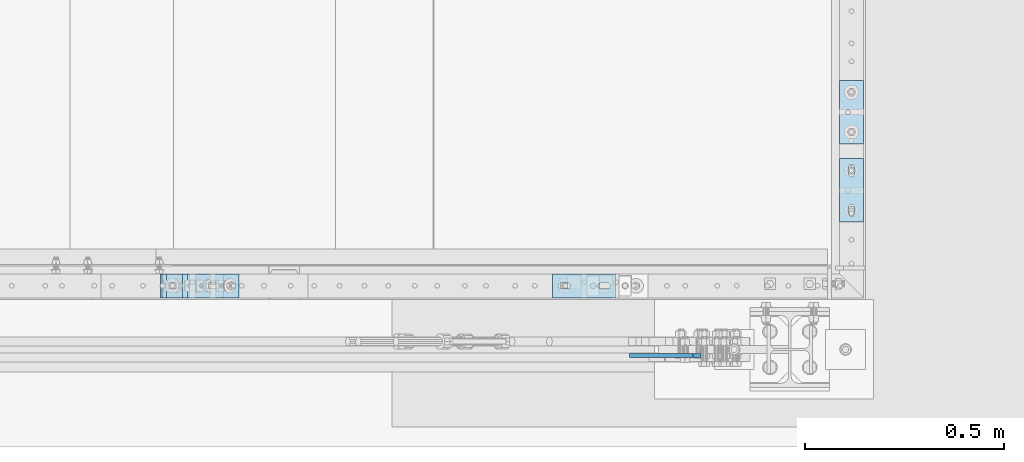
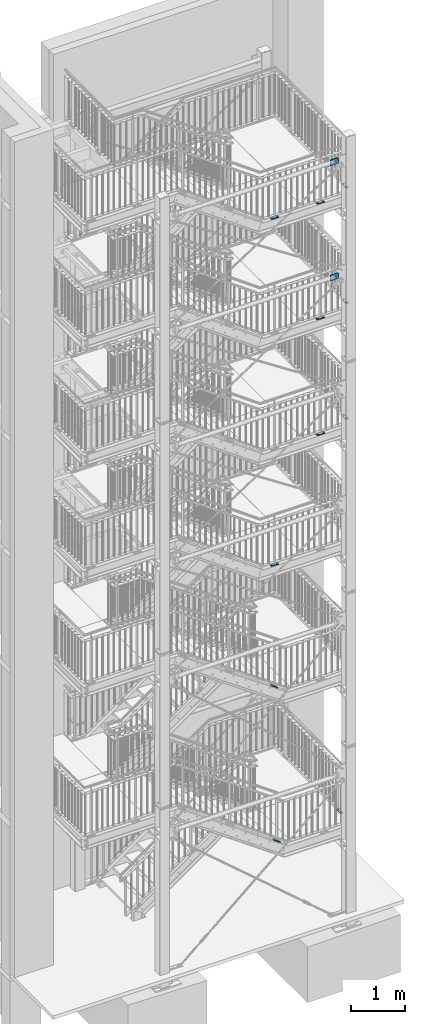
# One storey, part 198 of 831: 13 plates, 30 openings.
"""IFC2X3 building model written with IfcOpenShell, lengths in millimetres."""

import ifcopenshell
import ifcopenshell.guid

model = None  # the IFC model being written
_history = None  # IfcOwnerHistory: only IFC2X3 demands one
_inside = {}  # id of a spatial element -> (the spatial element, [elements in it])
_under = {}  # id of a project, library or spatial element -> (it, [spatial elements below it])
_declared = {}  # id of a project -> (the project, [libraries it declares])
_typed = {}  # id of a type object -> (the type object, [elements of that type])
_made_of = {}  # id of a material, layer set ... -> (it, [elements and type objects made of it])


def new_model(schema):
    """Start an empty IFC model of exactly this schema.

    Asked for "IFC4X3", IfcOpenShell would pick the latest addendum, in which some entities
    have other attributes; the version numbers below select the first issue.
    IFC2X3 requires an IfcOwnerHistory on every rooted entity: one is made here for all.
    """
    global model, _history
    if schema == "IFC4X3":
        model = ifcopenshell.file(schema_version=(4, 3, 0, 0))
    else:
        model = ifcopenshell.file(schema=schema)
    _inside.clear()
    _under.clear()
    _declared.clear()
    _typed.clear()
    _made_of.clear()
    _history = None
    if model.schema == "IFC2X3":
        org = make("IfcOrganization", Name="unknown")
        user = make(
            "IfcPersonAndOrganization",
            ThePerson=make("IfcPerson", FamilyName="unknown"),
            TheOrganization=org,
        )
        app = make(
            "IfcApplication",
            ApplicationDeveloper=org,
            Version="unknown",
            ApplicationFullName="unknown",
            ApplicationIdentifier="unknown",
        )
        _history = make(
            "IfcOwnerHistory",
            OwningUser=user,
            OwningApplication=app,
            ChangeAction="ADDED",
            CreationDate=0,
        )
    return model


def make(cls, **values):
    """One entity of the class cls with the attributes given. An attribute that is None is left unset."""
    return model.create_entity(
        cls, **{name: value for name, value in values.items() if value is not None}
    )


def entity(cls, *values):
    """Any entity or typed value of the class cls, its attributes in the order of the schema. None: left unset."""
    e = model.create_entity(cls)
    for i, value in enumerate(values):
        if value is not None:
            e[i] = value
    return e


def rooted(cls, **values):
    """An entity with a GlobalId (a new one), such as an element, a storey or a relation."""
    return make(cls, GlobalId=ifcopenshell.guid.new(), OwnerHistory=_history, **values)


def si_unit(unit_type, name, prefix=None):
    """IfcSIUnit, for example si_unit("LENGTHUNIT", "METRE", prefix="MILLI")."""
    return make("IfcSIUnit", UnitType=unit_type, Prefix=prefix, Name=name)


def converted_unit(unit_type, name, factor, base, dimensions=None, offset=None):
    """IfcConversionBasedUnit, such as the inch: factor (a typed value) times the base unit."""
    return make(
        "IfcConversionBasedUnit"
        if offset is None
        else "IfcConversionBasedUnitWithOffset",
        ConversionOffset=offset,
        Dimensions=None
        if dimensions is None
        else entity("IfcDimensionalExponents", *dimensions),
        UnitType=unit_type,
        Name=name,
        ConversionFactor=make(
            "IfcMeasureWithUnit", ValueComponent=factor, UnitComponent=base
        ),
    )


def assignment(units):
    """IfcUnitAssignment: the units of a project."""
    return None if units is None else make("IfcUnitAssignment", Units=units)


def point(xyz):
    """IfcCartesianPoint."""
    return None if xyz is None else make("IfcCartesianPoint", Coordinates=xyz)


def direction(xyz):
    """IfcDirection."""
    return None if xyz is None else make("IfcDirection", DirectionRatios=xyz)


def frame(location, z_axis=None, x_axis=None):
    """IfcAxis2Placement3D, a coordinate frame: its origin and axes. An axis left out is left unset."""
    return make(
        "IfcAxis2Placement3D",
        Location=point(location),
        Axis=direction(z_axis),
        RefDirection=direction(x_axis),
    )


def frame_2d(location, x_axis=None):
    """IfcAxis2Placement2D, a coordinate frame in the plane: its origin and x axis."""
    return make(
        "IfcAxis2Placement2D", Location=point(location), RefDirection=direction(x_axis)
    )


def origin():
    """The frame at (0, 0, 0) with its axes left unset."""
    return frame((0.0, 0.0, 0.0))


def origin_with_axes():
    """The frame at (0, 0, 0) with the z axis (0, 0, 1) and the x axis (1, 0, 0) written out."""
    return frame((0.0, 0.0, 0.0), z_axis=(0.0, 0.0, 1.0), x_axis=(1.0, 0.0, 0.0))


def place(relative_to, where):
    """IfcLocalPlacement: puts the frame where relative to a parent placement (None: the world)."""
    return make(
        "IfcLocalPlacement", PlacementRelTo=relative_to, RelativePlacement=where
    )


def context(
    kind, dimensions, precision=None, world=None, true_north=None, identifier=None
):
    """IfcGeometricRepresentationContext, for example the 3D "Model" context."""
    return make(
        "IfcGeometricRepresentationContext",
        ContextIdentifier=identifier,
        ContextType=kind,
        CoordinateSpaceDimension=dimensions,
        Precision=precision,
        WorldCoordinateSystem=world,
        TrueNorth=true_north,
    )


def project(units=None, contexts=None):
    """IfcProject with its units and contexts."""
    return rooted(
        "IfcProject",
        Name="project",
        RepresentationContexts=contexts,
        UnitsInContext=assignment(units),
    )


def spatial(cls, under=None, at=None, **own):
    """A site, building, storey or space (cls), placed at a placement, below another one or the project."""
    s = rooted(cls, ObjectPlacement=at, **own)
    if under is not None:
        _under.setdefault(under.id(), (under, []))[1].append(s)
    return s


def polyline(points):
    """IfcPolyline through the points."""
    return make("IfcPolyline", Points=[point(p) for p in points])


def circle_curve(where, radius):
    """IfcCircle in the frame where."""
    return make("IfcCircle", Position=where, Radius=radius)


def line_curve(start, along, magnitude):
    """IfcLine from a point along a vector."""
    return make(
        "IfcLine",
        Pnt=point(start),
        Dir=make("IfcVector", Orientation=direction(along), Magnitude=magnitude),
    )


def trimmed(basis, trim1, trim2, sense, master):
    """IfcTrimmedCurve: the piece of a basis curve between two trims."""
    return make(
        "IfcTrimmedCurve",
        BasisCurve=basis,
        Trim1=trim1,
        Trim2=trim2,
        SenseAgreement=sense,
        MasterRepresentation=master,
    )


def segment(curve, same_sense, transition):
    """IfcCompositeCurveSegment."""
    return make(
        "IfcCompositeCurveSegment",
        Transition=transition,
        SameSense=same_sense,
        ParentCurve=curve,
    )


def composite_curve(segments, self_intersect=None):
    """IfcCompositeCurve: segments joined end to end."""
    return make("IfcCompositeCurve", Segments=segments, SelfIntersect=self_intersect)


def profile(cls, at=None, kind="AREA", **sizes):
    """A parametric profile (cls). Its sizes go by their IFC names, for example OverallWidth=200.0."""
    return make(cls, ProfileType=kind, Position=at, **sizes)


def circle(**sizes):
    """IfcCircleProfileDef."""
    return profile("IfcCircleProfileDef", **sizes)


def outline(outer, holes=None, kind="AREA"):
    """IfcArbitraryClosedProfileDef: a profile drawn as a closed curve; with holes, ...WithVoids."""
    if holes is None:
        return make("IfcArbitraryClosedProfileDef", ProfileType=kind, OuterCurve=outer)
    return make(
        "IfcArbitraryProfileDefWithVoids",
        ProfileType=kind,
        OuterCurve=outer,
        InnerCurves=holes,
    )


def extrude(swept, where, along, depth):
    """IfcExtrudedAreaSolid: the profile swept, set in the frame where, extruded along a direction by depth."""
    return make(
        "IfcExtrudedAreaSolid",
        SweptArea=swept,
        Position=where,
        ExtrudedDirection=direction(along),
        Depth=depth,
    )


def shape(context_of_items, identifier, shape_type, items):
    """IfcShapeRepresentation: the items that make up one representation, for example the "Body"."""
    return make(
        "IfcShapeRepresentation",
        ContextOfItems=context_of_items,
        RepresentationIdentifier=identifier,
        RepresentationType=shape_type,
        Items=items,
    )


def material(Name=None, Category=None):
    """IfcMaterial."""
    return make("IfcMaterial", Name=Name, Category=Category)


def layer(
    of_material, thickness, ventilated=None, Name=None, Category=None, Priority=None
):
    """IfcMaterialLayer: one layer of a wall or slab, of a material (None: an air gap)."""
    return make(
        "IfcMaterialLayer",
        Material=of_material,
        LayerThickness=thickness,
        IsVentilated=ventilated,
        Name=Name,
        Category=Category,
        Priority=Priority,
    )


def layer_set(layers, Name=None):
    """IfcMaterialLayerSet."""
    return make("IfcMaterialLayerSet", MaterialLayers=layers, LayerSetName=Name)


def made_of(thing, what):
    """Note that an element or type object is made of a material, layer set ...; save() writes the relation."""
    if what is not None:
        _made_of.setdefault(what.id(), (what, []))[1].append(thing)
    return thing


def element(
    cls,
    number,
    at=None,
    inside=None,
    cuts=None,
    type_object=None,
    material=None,
    context=None,
    identifier="Body",
    shape_type=None,
    held_by="IfcProductDefinitionShape",
    body=None,
    shapes=None,
    **own,
):
    """One element of the class cls, such as IfcWall. Its Tag is "e" and its number.

    at: its placement. inside: the storey or other place that contains it. cuts: it is an
    opening in that element (IfcRelVoidsElement). A single representation is given by context,
    identifier, shape_type and body (its items); several are given by shapes. held_by: the class
    of the entity that holds the representations. save() writes the other relations.
    """
    e = rooted(cls, Tag="e%d" % number, ObjectPlacement=at, **own)
    if body is not None:
        shapes = [shape(context, identifier, shape_type, body)]
    if shapes is not None:
        e.Representation = make(held_by, Representations=shapes)
    if inside is not None:
        _inside.setdefault(inside.id(), (inside, []))[1].append(e)
    if cuts is not None:
        rooted(
            "IfcRelVoidsElement", RelatingBuildingElement=cuts, RelatedOpeningElement=e
        )
    if type_object is not None:
        _typed.setdefault(type_object.id(), (type_object, []))[1].append(e)
    return made_of(e, material)


def aggregate(whole, parts):
    """IfcRelAggregates: a whole, such as a stair, and the parts it consists of."""
    return rooted("IfcRelAggregates", RelatingObject=whole, RelatedObjects=parts)


def save(model, path):
    """Write the relations noted so far, then the file.

    IfcRelAggregates (storeys below a building ...), IfcRelContainedInSpatialStructure (elements
    in a storey), IfcRelDefinesByType, IfcRelAssociatesMaterial and IfcRelDeclares: one each for
    every whole, place, type object, material and project.
    """
    for whole, parts in _under.values():
        aggregate(whole, parts)
    for where, things in _inside.values():
        rooted(
            "IfcRelContainedInSpatialStructure",
            RelatedElements=things,
            RelatingStructure=where,
        )
    for kind, things in _typed.values():
        rooted("IfcRelDefinesByType", RelatedObjects=things, RelatingType=kind)
    for what, things in _made_of.values():
        rooted("IfcRelAssociatesMaterial", RelatedObjects=things, RelatingMaterial=what)
    for by, libraries in _declared.values():
        rooted("IfcRelDeclares", RelatingContext=by, RelatedDefinitions=libraries)
    model.write(path)


model = new_model("IFC2X3")

# Units and contexts
model_context = context("Model", 3, precision=1e-09, world=origin_with_axes())
ifc_project = project(units=[si_unit("LENGTHUNIT", "METRE", prefix="MILLI"), si_unit("AREAUNIT", "SQUARE_METRE"), si_unit("VOLUMEUNIT", "CUBIC_METRE"), converted_unit("PLANEANGLEUNIT", "DEGREE", entity("IfcPlaneAngleMeasure", 0.01745329), si_unit("PLANEANGLEUNIT", "RADIAN"), dimensions=[0, 0, 0, 0, 0, 0, 0])], contexts=[model_context])

# Site, building, storey
site_placement = place(None, origin_with_axes())
site = spatial("IfcSite", under=ifc_project, at=site_placement, Name="Site", CompositionType="ELEMENT")
building_placement = place(site_placement, origin_with_axes())
building = spatial("IfcBuilding", under=site, at=building_placement, Name="Struktur 1", CompositionType="ELEMENT")
storey_placement = place(building_placement, origin_with_axes())
storey = spatial("IfcBuildingStorey", under=building, at=storey_placement, Name="Default Storey", CompositionType="ELEMENT", Elevation=0.0)

# Plate, openings
ifc_material = material(Name="S235JR")
ifc_layer_1 = layer(ifc_material, 20.0)
ifc_layer_set_1 = layer_set([ifc_layer_1], Name="S235JR")
plate_1_placement = place(None, frame((9051.713402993, 4686.735971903, 11265.5000003), z_axis=(0.0, 0.0, 1.0), x_axis=(0.0, 1.0, 0.0)))
plate_1 = element("IfcPlate", 1, at=plate_1_placement, inside=storey, material=ifc_layer_set_1, Name="Plate#507", ObjectType="Plate#507", context=model_context, shape_type="SweptSolid", body=[
    extrude(outline(polyline([(0.0, 0.0), (160.0, 0.0), (160.0, 60.0), (0.0, 60.0), (0.0, 0.0)])), origin_with_axes(), (0.0, 0.0, 1.0), 20.0),
])
opening_1_placement = place(plate_1_placement, frame((38.0, 37.001, 20.5), z_axis=(0.0, 0.0, 1.0), x_axis=(-1.0, 0.0, 0.0)))
element("IfcOpeningElement", 2, at=opening_1_placement, cuts=plate_1, ObjectType="Opening", context=model_context, shape_type="SweptSolid", body=[
    extrude(outline(composite_curve([segment(trimmed(line_curve((0.0, 0.0), (1.0, 0.0), 16.0), [point((0.0, 0.0))], [point((16.0, 0.0))], True, "CARTESIAN"), True, "CONTINUOUS"), segment(trimmed(circle_curve(frame_2d((16.0, 7.001), x_axis=(1.0, 0.0)), 7.001), [point((16.0, 0.0))], [point((16.0, 14.002))], True, "CARTESIAN"), True, "CONTINUOUS"), segment(trimmed(line_curve((16.0, 14.002), (-1.0, 0.0), 16.0), [point((16.0, 14.002))], [point((0.0, 14.002))], True, "CARTESIAN"), True, "CONTINUOUS"), segment(trimmed(circle_curve(frame_2d((0.0, 7.001), x_axis=(1.0, 0.0)), 7.001), [point((0.0, 14.002))], [point((0.0, 0.0))], True, "CARTESIAN"), True, "CONTINUOUS")], self_intersect=False)), origin(), (0.0, 0.0, -1.0), 21.0),
])
opening_2_placement = place(plate_1_placement, frame((138.0, 37.001, 20.5), z_axis=(0.0, 0.0, 1.0), x_axis=(-1.0, 0.0, 0.0)))
element("IfcOpeningElement", 3, at=opening_2_placement, cuts=plate_1, ObjectType="Opening", context=model_context, shape_type="SweptSolid", body=[
    extrude(outline(composite_curve([segment(trimmed(line_curve((0.0, 0.0), (1.0, 0.0), 16.0), [point((0.0, 0.0))], [point((16.0, 0.0))], True, "CARTESIAN"), True, "CONTINUOUS"), segment(trimmed(circle_curve(frame_2d((16.0, 7.001), x_axis=(1.0, 0.0)), 7.001), [point((16.0, 0.0))], [point((16.0, 14.002))], True, "CARTESIAN"), True, "CONTINUOUS"), segment(trimmed(line_curve((16.0, 14.002), (-1.0, 0.0), 16.0), [point((16.0, 14.002))], [point((0.0, 14.002))], True, "CARTESIAN"), True, "CONTINUOUS"), segment(trimmed(circle_curve(frame_2d((0.0, 7.001), x_axis=(1.0, 0.0)), 7.001), [point((0.0, 14.002))], [point((0.0, 0.0))], True, "CARTESIAN"), True, "CONTINUOUS")], self_intersect=False)), origin(), (0.0, 0.0, -1.0), 21.0),
])

plate_2_placement = place(None, frame((8269.792260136, 4496.736971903, 11265.5000003), z_axis=(0.0, 0.0, 1.0), x_axis=(1.0, 0.0, 0.0)))
plate_2 = element("IfcPlate", 4, at=plate_2_placement, inside=storey, material=ifc_layer_set_1, Name="Plate#508", ObjectType="Plate#508", context=model_context, shape_type="SweptSolid", body=[
    extrude(outline(polyline([(0.0, 0.0), (160.0, 0.0), (160.0, 60.0), (0.0, 60.0), (0.0, 0.0)])), origin_with_axes(), (0.0, 0.0, 1.0), 20.0),
])
opening_3_placement = place(plate_2_placement, frame((38.0, 37.001, 20.5), z_axis=(0.0, 0.0, 1.0), x_axis=(-1.0, 0.0, 0.0)))
element("IfcOpeningElement", 5, at=opening_3_placement, cuts=plate_2, ObjectType="Opening", context=model_context, shape_type="SweptSolid", body=[
    extrude(outline(composite_curve([segment(trimmed(line_curve((0.0, 0.0), (1.0, 0.0), 16.0), [point((0.0, 0.0))], [point((16.0, 0.0))], True, "CARTESIAN"), True, "CONTINUOUS"), segment(trimmed(circle_curve(frame_2d((16.0, 7.001), x_axis=(1.0, 0.0)), 7.001), [point((16.0, 0.0))], [point((16.0, 14.002))], True, "CARTESIAN"), True, "CONTINUOUS"), segment(trimmed(line_curve((16.0, 14.002), (-1.0, 0.0), 16.0), [point((16.0, 14.002))], [point((0.0, 14.002))], True, "CARTESIAN"), True, "CONTINUOUS"), segment(trimmed(circle_curve(frame_2d((0.0, 7.001), x_axis=(1.0, 0.0)), 7.001), [point((0.0, 14.002))], [point((0.0, 0.0))], True, "CARTESIAN"), True, "CONTINUOUS")], self_intersect=False)), origin(), (0.0, 0.0, -1.0), 21.0),
])
opening_4_placement = place(plate_2_placement, frame((138.0, 37.001, 20.5), z_axis=(0.0, 0.0, 1.0), x_axis=(-1.0, 0.0, 0.0)))
element("IfcOpeningElement", 6, at=opening_4_placement, cuts=plate_2, ObjectType="Opening", context=model_context, shape_type="SweptSolid", body=[
    extrude(outline(composite_curve([segment(trimmed(line_curve((0.0, 0.0), (1.0, 0.0), 16.0), [point((0.0, 0.0))], [point((16.0, 0.0))], True, "CARTESIAN"), True, "CONTINUOUS"), segment(trimmed(circle_curve(frame_2d((16.0, 7.001), x_axis=(1.0, 0.0)), 7.001), [point((16.0, 0.0))], [point((16.0, 14.002))], True, "CARTESIAN"), True, "CONTINUOUS"), segment(trimmed(line_curve((16.0, 14.002), (-1.0, 0.0), 16.0), [point((16.0, 14.002))], [point((0.0, 14.002))], True, "CARTESIAN"), True, "CONTINUOUS"), segment(trimmed(circle_curve(frame_2d((0.0, 7.001), x_axis=(1.0, 0.0)), 7.001), [point((0.0, 14.002))], [point((0.0, 0.0))], True, "CARTESIAN"), True, "CONTINUOUS")], self_intersect=False)), origin(), (0.0, 0.0, -1.0), 21.0),
])

plate_3_placement = place(None, frame((9051.713402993, 4686.735971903, 13896.5000001), z_axis=(0.0, 0.0, 1.0), x_axis=(0.0, 1.0, 0.0)))
plate_3 = element("IfcPlate", 7, at=plate_3_placement, inside=storey, material=ifc_layer_set_1, Name="Plate#507", ObjectType="Plate#507", context=model_context, shape_type="SweptSolid", body=[
    extrude(outline(polyline([(0.0, 0.0), (160.0, 0.0), (160.0, 60.0), (0.0, 60.0), (0.0, 0.0)])), origin_with_axes(), (0.0, 0.0, 1.0), 20.0),
])
opening_5_placement = place(plate_3_placement, frame((38.0, 37.001, 20.5), z_axis=(0.0, 0.0, 1.0), x_axis=(-1.0, 0.0, 0.0)))
element("IfcOpeningElement", 8, at=opening_5_placement, cuts=plate_3, ObjectType="Opening", context=model_context, shape_type="SweptSolid", body=[
    extrude(outline(composite_curve([segment(trimmed(line_curve((0.0, 0.0), (1.0, 0.0), 16.0), [point((0.0, 0.0))], [point((16.0, 0.0))], True, "CARTESIAN"), True, "CONTINUOUS"), segment(trimmed(circle_curve(frame_2d((16.0, 7.001), x_axis=(1.0, 0.0)), 7.001), [point((16.0, 0.0))], [point((16.0, 14.002))], True, "CARTESIAN"), True, "CONTINUOUS"), segment(trimmed(line_curve((16.0, 14.002), (-1.0, 0.0), 16.0), [point((16.0, 14.002))], [point((0.0, 14.002))], True, "CARTESIAN"), True, "CONTINUOUS"), segment(trimmed(circle_curve(frame_2d((0.0, 7.001), x_axis=(1.0, 0.0)), 7.001), [point((0.0, 14.002))], [point((0.0, 0.0))], True, "CARTESIAN"), True, "CONTINUOUS")], self_intersect=False)), origin(), (0.0, 0.0, -1.0), 21.0),
])
opening_6_placement = place(plate_3_placement, frame((138.0, 37.001, 20.5), z_axis=(0.0, 0.0, 1.0), x_axis=(-1.0, 0.0, 0.0)))
element("IfcOpeningElement", 9, at=opening_6_placement, cuts=plate_3, ObjectType="Opening", context=model_context, shape_type="SweptSolid", body=[
    extrude(outline(composite_curve([segment(trimmed(line_curve((0.0, 0.0), (1.0, 0.0), 16.0), [point((0.0, 0.0))], [point((16.0, 0.0))], True, "CARTESIAN"), True, "CONTINUOUS"), segment(trimmed(circle_curve(frame_2d((16.0, 7.001), x_axis=(1.0, 0.0)), 7.001), [point((16.0, 0.0))], [point((16.0, 14.002))], True, "CARTESIAN"), True, "CONTINUOUS"), segment(trimmed(line_curve((16.0, 14.002), (-1.0, 0.0), 16.0), [point((16.0, 14.002))], [point((0.0, 14.002))], True, "CARTESIAN"), True, "CONTINUOUS"), segment(trimmed(circle_curve(frame_2d((0.0, 7.001), x_axis=(1.0, 0.0)), 7.001), [point((0.0, 14.002))], [point((0.0, 0.0))], True, "CARTESIAN"), True, "CONTINUOUS")], self_intersect=False)), origin(), (0.0, 0.0, -1.0), 21.0),
])

plate_4_placement = place(None, frame((8269.792260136, 4496.736971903, 13896.5000001), z_axis=(0.0, 0.0, 1.0), x_axis=(1.0, 0.0, 0.0)))
plate_4 = element("IfcPlate", 10, at=plate_4_placement, inside=storey, material=ifc_layer_set_1, Name="Plate#508", ObjectType="Plate#508", context=model_context, shape_type="SweptSolid", body=[
    extrude(outline(polyline([(0.0, 0.0), (160.0, 0.0), (160.0, 60.0), (0.0, 60.0), (0.0, 0.0)])), origin_with_axes(), (0.0, 0.0, 1.0), 20.0),
])
opening_7_placement = place(plate_4_placement, frame((38.0, 37.001, 20.5), z_axis=(0.0, 0.0, 1.0), x_axis=(-1.0, 0.0, 0.0)))
element("IfcOpeningElement", 11, at=opening_7_placement, cuts=plate_4, ObjectType="Opening", context=model_context, shape_type="SweptSolid", body=[
    extrude(outline(composite_curve([segment(trimmed(line_curve((0.0, 0.0), (1.0, 0.0), 16.0), [point((0.0, 0.0))], [point((16.0, 0.0))], True, "CARTESIAN"), True, "CONTINUOUS"), segment(trimmed(circle_curve(frame_2d((16.0, 7.001), x_axis=(1.0, 0.0)), 7.001), [point((16.0, 0.0))], [point((16.0, 14.002))], True, "CARTESIAN"), True, "CONTINUOUS"), segment(trimmed(line_curve((16.0, 14.002), (-1.0, 0.0), 16.0), [point((16.0, 14.002))], [point((0.0, 14.002))], True, "CARTESIAN"), True, "CONTINUOUS"), segment(trimmed(circle_curve(frame_2d((0.0, 7.001), x_axis=(1.0, 0.0)), 7.001), [point((0.0, 14.002))], [point((0.0, 0.0))], True, "CARTESIAN"), True, "CONTINUOUS")], self_intersect=False)), origin(), (0.0, 0.0, -1.0), 21.0),
])
opening_8_placement = place(plate_4_placement, frame((138.0, 37.001, 20.5), z_axis=(0.0, 0.0, 1.0), x_axis=(-1.0, 0.0, 0.0)))
element("IfcOpeningElement", 12, at=opening_8_placement, cuts=plate_4, ObjectType="Opening", context=model_context, shape_type="SweptSolid", body=[
    extrude(outline(composite_curve([segment(trimmed(line_curve((0.0, 0.0), (1.0, 0.0), 16.0), [point((0.0, 0.0))], [point((16.0, 0.0))], True, "CARTESIAN"), True, "CONTINUOUS"), segment(trimmed(circle_curve(frame_2d((16.0, 7.001), x_axis=(1.0, 0.0)), 7.001), [point((16.0, 0.0))], [point((16.0, 14.002))], True, "CARTESIAN"), True, "CONTINUOUS"), segment(trimmed(line_curve((16.0, 14.002), (-1.0, 0.0), 16.0), [point((16.0, 14.002))], [point((0.0, 14.002))], True, "CARTESIAN"), True, "CONTINUOUS"), segment(trimmed(circle_curve(frame_2d((0.0, 7.001), x_axis=(1.0, 0.0)), 7.001), [point((0.0, 14.002))], [point((0.0, 0.0))], True, "CARTESIAN"), True, "CONTINUOUS")], self_intersect=False)), origin(), (0.0, 0.0, -1.0), 21.0),
])

plate_5_placement = place(None, frame((9051.713402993, 4686.735971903, 16524.0000003), z_axis=(0.0, 0.0, 1.0), x_axis=(0.0, 1.0, 0.0)))
plate_5 = element("IfcPlate", 13, at=plate_5_placement, inside=storey, material=ifc_layer_set_1, Name="Plate#507", ObjectType="Plate#507", context=model_context, shape_type="SweptSolid", body=[
    extrude(outline(polyline([(0.0, 0.0), (160.0, 0.0), (160.0, 60.0), (0.0, 60.0), (0.0, 0.0)])), origin_with_axes(), (0.0, 0.0, 1.0), 20.0),
])
opening_9_placement = place(plate_5_placement, frame((38.0, 37.001, 20.5), z_axis=(0.0, 0.0, 1.0), x_axis=(-1.0, 0.0, 0.0)))
element("IfcOpeningElement", 14, at=opening_9_placement, cuts=plate_5, ObjectType="Opening", context=model_context, shape_type="SweptSolid", body=[
    extrude(outline(composite_curve([segment(trimmed(line_curve((0.0, 0.0), (1.0, 0.0), 16.0), [point((0.0, 0.0))], [point((16.0, 0.0))], True, "CARTESIAN"), True, "CONTINUOUS"), segment(trimmed(circle_curve(frame_2d((16.0, 7.001), x_axis=(1.0, 0.0)), 7.001), [point((16.0, 0.0))], [point((16.0, 14.002))], True, "CARTESIAN"), True, "CONTINUOUS"), segment(trimmed(line_curve((16.0, 14.002), (-1.0, 0.0), 16.0), [point((16.0, 14.002))], [point((0.0, 14.002))], True, "CARTESIAN"), True, "CONTINUOUS"), segment(trimmed(circle_curve(frame_2d((0.0, 7.001), x_axis=(1.0, 0.0)), 7.001), [point((0.0, 14.002))], [point((0.0, 0.0))], True, "CARTESIAN"), True, "CONTINUOUS")], self_intersect=False)), origin(), (0.0, 0.0, -1.0), 21.0),
])
opening_10_placement = place(plate_5_placement, frame((138.0, 37.001, 20.5), z_axis=(0.0, 0.0, 1.0), x_axis=(-1.0, 0.0, 0.0)))
element("IfcOpeningElement", 15, at=opening_10_placement, cuts=plate_5, ObjectType="Opening", context=model_context, shape_type="SweptSolid", body=[
    extrude(outline(composite_curve([segment(trimmed(line_curve((0.0, 0.0), (1.0, 0.0), 16.0), [point((0.0, 0.0))], [point((16.0, 0.0))], True, "CARTESIAN"), True, "CONTINUOUS"), segment(trimmed(circle_curve(frame_2d((16.0, 7.001), x_axis=(1.0, 0.0)), 7.001), [point((16.0, 0.0))], [point((16.0, 14.002))], True, "CARTESIAN"), True, "CONTINUOUS"), segment(trimmed(line_curve((16.0, 14.002), (-1.0, 0.0), 16.0), [point((16.0, 14.002))], [point((0.0, 14.002))], True, "CARTESIAN"), True, "CONTINUOUS"), segment(trimmed(circle_curve(frame_2d((0.0, 7.001), x_axis=(1.0, 0.0)), 7.001), [point((0.0, 14.002))], [point((0.0, 0.0))], True, "CARTESIAN"), True, "CONTINUOUS")], self_intersect=False)), origin(), (0.0, 0.0, -1.0), 21.0),
])

plate_6_placement = place(None, frame((8269.792260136, 4496.736971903, 16524.0000003), z_axis=(0.0, 0.0, 1.0), x_axis=(1.0, 0.0, 0.0)))
plate_6 = element("IfcPlate", 16, at=plate_6_placement, inside=storey, material=ifc_layer_set_1, Name="Plate#508", ObjectType="Plate#508", context=model_context, shape_type="SweptSolid", body=[
    extrude(outline(polyline([(0.0, 0.0), (160.0, 0.0), (160.0, 60.0), (0.0, 60.0), (0.0, 0.0)])), origin_with_axes(), (0.0, 0.0, 1.0), 20.0),
])
opening_11_placement = place(plate_6_placement, frame((38.0, 37.001, 20.5), z_axis=(0.0, 0.0, 1.0), x_axis=(-1.0, 0.0, 0.0)))
element("IfcOpeningElement", 17, at=opening_11_placement, cuts=plate_6, ObjectType="Opening", context=model_context, shape_type="SweptSolid", body=[
    extrude(outline(composite_curve([segment(trimmed(line_curve((0.0, 0.0), (1.0, 0.0), 16.0), [point((0.0, 0.0))], [point((16.0, 0.0))], True, "CARTESIAN"), True, "CONTINUOUS"), segment(trimmed(circle_curve(frame_2d((16.0, 7.001), x_axis=(1.0, 0.0)), 7.001), [point((16.0, 0.0))], [point((16.0, 14.002))], True, "CARTESIAN"), True, "CONTINUOUS"), segment(trimmed(line_curve((16.0, 14.002), (-1.0, 0.0), 16.0), [point((16.0, 14.002))], [point((0.0, 14.002))], True, "CARTESIAN"), True, "CONTINUOUS"), segment(trimmed(circle_curve(frame_2d((0.0, 7.001), x_axis=(1.0, 0.0)), 7.001), [point((0.0, 14.002))], [point((0.0, 0.0))], True, "CARTESIAN"), True, "CONTINUOUS")], self_intersect=False)), origin(), (0.0, 0.0, -1.0), 21.0),
])
opening_12_placement = place(plate_6_placement, frame((138.0, 37.001, 20.5), z_axis=(0.0, 0.0, 1.0), x_axis=(-1.0, 0.0, 0.0)))
element("IfcOpeningElement", 18, at=opening_12_placement, cuts=plate_6, ObjectType="Opening", context=model_context, shape_type="SweptSolid", body=[
    extrude(outline(composite_curve([segment(trimmed(line_curve((0.0, 0.0), (1.0, 0.0), 16.0), [point((0.0, 0.0))], [point((16.0, 0.0))], True, "CARTESIAN"), True, "CONTINUOUS"), segment(trimmed(circle_curve(frame_2d((16.0, 7.001), x_axis=(1.0, 0.0)), 7.001), [point((16.0, 0.0))], [point((16.0, 14.002))], True, "CARTESIAN"), True, "CONTINUOUS"), segment(trimmed(line_curve((16.0, 14.002), (-1.0, 0.0), 16.0), [point((16.0, 14.002))], [point((0.0, 14.002))], True, "CARTESIAN"), True, "CONTINUOUS"), segment(trimmed(circle_curve(frame_2d((0.0, 7.001), x_axis=(1.0, 0.0)), 7.001), [point((0.0, 14.002))], [point((0.0, 0.0))], True, "CARTESIAN"), True, "CONTINUOUS")], self_intersect=False)), origin(), (0.0, 0.0, -1.0), 21.0),
])

plate_7_placement = place(None, frame((7284.792117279, 4496.736971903, 16524.0000003), z_axis=(0.0, 0.0, 1.0), x_axis=(1.0, 0.0, 0.0)))
plate_7 = element("IfcPlate", 19, at=plate_7_placement, inside=storey, material=ifc_layer_set_1, Name="Plate#509", ObjectType="Plate#509", context=model_context, shape_type="SweptSolid", body=[
    extrude(outline(polyline([(0.0, 0.0), (160.0, 0.0), (160.0, 60.0), (0.0, 60.0), (0.0, 0.0)])), origin_with_axes(), (0.0, 0.0, 1.0), 20.0),
])
opening_13_placement = place(plate_7_placement, frame((38.0, 37.001, 20.5), z_axis=(0.0, 0.0, 1.0), x_axis=(-1.0, 0.0, 0.0)))
element("IfcOpeningElement", 20, at=opening_13_placement, cuts=plate_7, ObjectType="Opening", context=model_context, shape_type="SweptSolid", body=[
    extrude(outline(composite_curve([segment(trimmed(line_curve((0.0, 0.0), (1.0, 0.0), 16.0), [point((0.0, 0.0))], [point((16.0, 0.0))], True, "CARTESIAN"), True, "CONTINUOUS"), segment(trimmed(circle_curve(frame_2d((16.0, 7.001), x_axis=(1.0, 0.0)), 7.001), [point((16.0, 0.0))], [point((16.0, 14.002))], True, "CARTESIAN"), True, "CONTINUOUS"), segment(trimmed(line_curve((16.0, 14.002), (-1.0, 0.0), 16.0), [point((16.0, 14.002))], [point((0.0, 14.002))], True, "CARTESIAN"), True, "CONTINUOUS"), segment(trimmed(circle_curve(frame_2d((0.0, 7.001), x_axis=(1.0, 0.0)), 7.001), [point((0.0, 14.002))], [point((0.0, 0.0))], True, "CARTESIAN"), True, "CONTINUOUS")], self_intersect=False)), origin(), (0.0, 0.0, -1.0), 21.0),
])
opening_14_placement = place(plate_7_placement, frame((138.0, 37.001, 20.5), z_axis=(0.0, 0.0, 1.0), x_axis=(-1.0, 0.0, 0.0)))
element("IfcOpeningElement", 21, at=opening_14_placement, cuts=plate_7, ObjectType="Opening", context=model_context, shape_type="SweptSolid", body=[
    extrude(outline(composite_curve([segment(trimmed(line_curve((0.0, 0.0), (1.0, 0.0), 16.0), [point((0.0, 0.0))], [point((16.0, 0.0))], True, "CARTESIAN"), True, "CONTINUOUS"), segment(trimmed(circle_curve(frame_2d((16.0, 7.001), x_axis=(1.0, 0.0)), 7.001), [point((16.0, 0.0))], [point((16.0, 14.002))], True, "CARTESIAN"), True, "CONTINUOUS"), segment(trimmed(line_curve((16.0, 14.002), (-1.0, 0.0), 16.0), [point((16.0, 14.002))], [point((0.0, 14.002))], True, "CARTESIAN"), True, "CONTINUOUS"), segment(trimmed(circle_curve(frame_2d((0.0, 7.001), x_axis=(1.0, 0.0)), 7.001), [point((0.0, 14.002))], [point((0.0, 0.0))], True, "CARTESIAN"), True, "CONTINUOUS")], self_intersect=False)), origin(), (0.0, 0.0, -1.0), 21.0),
])

ifc_layer_2 = layer(ifc_material, 10.0)
ifc_layer_set_2 = layer_set([ifc_layer_2], Name="S235JR")
plate_8_placement = place(None, frame((8553.463402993, 4356.736971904, 14878.999996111), z_axis=(0.0, -1.0, 0.0), x_axis=(1.0, 0.0, 0.0)))
plate_8 = element("IfcPlate", 22, at=plate_8_placement, inside=storey, material=ifc_layer_set_2, Name="-", ObjectType="-", context=model_context, shape_type="SweptSolid", body=[
    extrude(outline(polyline([(-90.0, -70.0), (90.0, -70.0), (90.0, 70.0), (-90.0, 70.0), (-90.0, -70.0)])), origin_with_axes(), (0.0, 0.0, 1.0), 10.0),
])
opening_15_placement = place(plate_8_placement, frame((0.0, 0.0, -0.01), z_axis=(0.0, 0.0, 1.0), x_axis=(1.0, 0.0, 0.0)))
element("IfcOpeningElement", 23, at=opening_15_placement, cuts=plate_8, ObjectType="Opening", context=model_context, shape_type="SweptSolid", body=[
    extrude(outline(polyline([(90.0, -70.0), (90.0, -50.0), (70.0, -70.0), (90.0, -70.0)])), origin(), (0.0, 0.0, 1.0), 10.02),
])
opening_16_placement = place(plate_8_placement, frame((0.0, 0.0, -0.01), z_axis=(0.0, 0.0, 1.0), x_axis=(1.0, 0.0, 0.0)))
element("IfcOpeningElement", 24, at=opening_16_placement, cuts=plate_8, ObjectType="Opening", context=model_context, shape_type="SweptSolid", body=[
    extrude(outline(polyline([(90.0, 70.0), (70.0, 70.0), (90.0, 50.0), (90.0, 70.0)])), origin(), (0.0, 0.0, 1.0), 10.02),
])
opening_17_placement = place(plate_8_placement, frame((50.0, 0.0, -0.5), z_axis=(0.0, 0.0, 1.0), x_axis=(1.0, 0.0, 0.0)))
element("IfcOpeningElement", 25, at=opening_17_placement, cuts=plate_8, ObjectType="Opening", context=model_context, shape_type="SweptSolid", body=[
    extrude(circle(Radius=9.001, at=frame_2d((0.0, 30.0), x_axis=(1.0, 0.0))), origin(), (0.0, 0.0, 1.0), 11.0),
])
opening_18_placement = place(plate_8_placement, frame((50.0, 0.0, -0.5), z_axis=(0.0, 0.0, 1.0), x_axis=(1.0, 0.0, 0.0)))
element("IfcOpeningElement", 26, at=opening_18_placement, cuts=plate_8, ObjectType="Opening", context=model_context, shape_type="SweptSolid", body=[
    extrude(circle(Radius=9.001, at=frame_2d((0.0, -30.0), x_axis=(1.0, 0.0))), origin(), (0.0, 0.0, 1.0), 11.0),
])

plate_9_placement = place(None, frame((8553.463402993, 4356.736971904, 17498.999996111), z_axis=(0.0, -1.0, 0.0), x_axis=(1.0, 0.0, 0.0)))
plate_9 = element("IfcPlate", 27, at=plate_9_placement, inside=storey, material=ifc_layer_set_2, Name="-", ObjectType="-", context=model_context, shape_type="SweptSolid", body=[
    extrude(outline(polyline([(-90.0, -70.0), (90.0, -70.0), (90.0, 70.0), (-90.0, 70.0), (-90.0, -70.0)])), origin_with_axes(), (0.0, 0.0, 1.0), 10.0),
])
opening_19_placement = place(plate_9_placement, frame((0.0, 0.0, -0.01), z_axis=(0.0, 0.0, 1.0), x_axis=(1.0, 0.0, 0.0)))
element("IfcOpeningElement", 28, at=opening_19_placement, cuts=plate_9, ObjectType="Opening", context=model_context, shape_type="SweptSolid", body=[
    extrude(outline(polyline([(90.0, -70.0), (90.0, -50.0), (70.0, -70.0), (90.0, -70.0)])), origin(), (0.0, 0.0, 1.0), 10.02),
])
opening_20_placement = place(plate_9_placement, frame((0.0, 0.0, -0.01), z_axis=(0.0, 0.0, 1.0), x_axis=(1.0, 0.0, 0.0)))
element("IfcOpeningElement", 29, at=opening_20_placement, cuts=plate_9, ObjectType="Opening", context=model_context, shape_type="SweptSolid", body=[
    extrude(outline(polyline([(90.0, 70.0), (70.0, 70.0), (90.0, 50.0), (90.0, 70.0)])), origin(), (0.0, 0.0, 1.0), 10.02),
])
opening_21_placement = place(plate_9_placement, frame((50.0, 0.0, -0.5), z_axis=(0.0, 0.0, 1.0), x_axis=(1.0, 0.0, 0.0)))
element("IfcOpeningElement", 30, at=opening_21_placement, cuts=plate_9, ObjectType="Opening", context=model_context, shape_type="SweptSolid", body=[
    extrude(circle(Radius=9.001, at=frame_2d((0.0, 30.0), x_axis=(1.0, 0.0))), origin(), (0.0, 0.0, 1.0), 11.0),
])
opening_22_placement = place(plate_9_placement, frame((50.0, 0.0, -0.5), z_axis=(0.0, 0.0, 1.0), x_axis=(1.0, 0.0, 0.0)))
element("IfcOpeningElement", 31, at=opening_22_placement, cuts=plate_9, ObjectType="Opening", context=model_context, shape_type="SweptSolid", body=[
    extrude(circle(Radius=9.001, at=frame_2d((0.0, -30.0), x_axis=(1.0, 0.0))), origin(), (0.0, 0.0, 1.0), 11.0),
])

plate_10_placement = place(None, frame((9051.713402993, 4883.274795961, 2181.0526312), z_axis=(0.0, 0.0, 1.0), x_axis=(0.0, 1.0, 0.0)))
plate_10 = element("IfcPlate", 32, at=plate_10_placement, inside=storey, material=ifc_layer_set_1, Name="Plate#506", ObjectType="Plate#506", context=model_context, shape_type="SweptSolid", body=[
    extrude(outline(polyline([(0.0, 0.0), (160.0, 0.0), (160.0, 60.0), (0.0, 60.0), (0.0, 0.0)])), origin_with_axes(), (0.0, 0.0, 1.0), 20.0),
])
opening_23_placement = place(plate_10_placement, frame((38.0, 37.001, 20.5), z_axis=(0.0, 0.0, 1.0), x_axis=(-1.0, 0.0, 0.0)))
element("IfcOpeningElement", 33, at=opening_23_placement, cuts=plate_10, ObjectType="Opening", context=model_context, shape_type="SweptSolid", body=[
    extrude(outline(composite_curve([segment(trimmed(line_curve((0.0, 0.0), (1.0, 0.0), 16.0), [point((0.0, 0.0))], [point((16.0, 0.0))], True, "CARTESIAN"), True, "CONTINUOUS"), segment(trimmed(circle_curve(frame_2d((16.0, 7.001), x_axis=(1.0, 0.0)), 7.001), [point((16.0, 0.0))], [point((16.0, 14.002))], True, "CARTESIAN"), True, "CONTINUOUS"), segment(trimmed(line_curve((16.0, 14.002), (-1.0, 0.0), 16.0), [point((16.0, 14.002))], [point((0.0, 14.002))], True, "CARTESIAN"), True, "CONTINUOUS"), segment(trimmed(circle_curve(frame_2d((0.0, 7.001), x_axis=(1.0, 0.0)), 7.001), [point((0.0, 14.002))], [point((0.0, 0.0))], True, "CARTESIAN"), True, "CONTINUOUS")], self_intersect=False)), origin(), (0.0, 0.0, -1.0), 21.0),
])
opening_24_placement = place(plate_10_placement, frame((138.0, 37.001, 20.5), z_axis=(0.0, 0.0, 1.0), x_axis=(-1.0, 0.0, 0.0)))
element("IfcOpeningElement", 34, at=opening_24_placement, cuts=plate_10, ObjectType="Opening", context=model_context, shape_type="SweptSolid", body=[
    extrude(outline(composite_curve([segment(trimmed(line_curve((0.0, 0.0), (1.0, 0.0), 16.0), [point((0.0, 0.0))], [point((16.0, 0.0))], True, "CARTESIAN"), True, "CONTINUOUS"), segment(trimmed(circle_curve(frame_2d((16.0, 7.001), x_axis=(1.0, 0.0)), 7.001), [point((16.0, 0.0))], [point((16.0, 14.002))], True, "CARTESIAN"), True, "CONTINUOUS"), segment(trimmed(line_curve((16.0, 14.002), (-1.0, 0.0), 16.0), [point((16.0, 14.002))], [point((0.0, 14.002))], True, "CARTESIAN"), True, "CONTINUOUS"), segment(trimmed(circle_curve(frame_2d((0.0, 7.001), x_axis=(1.0, 0.0)), 7.001), [point((0.0, 14.002))], [point((0.0, 0.0))], True, "CARTESIAN"), True, "CONTINUOUS")], self_intersect=False)), origin(), (0.0, 0.0, -1.0), 21.0),
])

plate_11_placement = place(None, frame((7340.422294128, 4496.736971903, 2389.278507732), z_axis=(0.579973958, 0.0, 0.814635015), x_axis=(0.814635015, 0.0, -0.579973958)))
plate_11 = element("IfcPlate", 35, at=plate_11_placement, inside=storey, material=ifc_layer_set_1, Name="Plate#508", ObjectType="Plate#508", context=model_context, shape_type="SweptSolid", body=[
    extrude(outline(polyline([(0.0, 0.0), (160.0, 0.0), (160.0, 60.0), (0.0, 60.0), (0.0, 0.0)])), origin_with_axes(), (0.0, 0.0, 1.0), 20.0),
])
opening_25_placement = place(plate_11_placement, frame((38.0, 37.001, 20.5), z_axis=(0.0, 0.0, 1.0), x_axis=(-1.0, 0.0, 0.0)))
element("IfcOpeningElement", 36, at=opening_25_placement, cuts=plate_11, ObjectType="Opening", context=model_context, shape_type="SweptSolid", body=[
    extrude(outline(composite_curve([segment(trimmed(line_curve((0.0, 0.0), (1.0, 0.0), 16.0), [point((0.0, 0.0))], [point((16.0, 0.0))], True, "CARTESIAN"), True, "CONTINUOUS"), segment(trimmed(circle_curve(frame_2d((16.0, 7.001), x_axis=(1.0, 0.0)), 7.001), [point((16.0, 0.0))], [point((16.0, 14.002))], True, "CARTESIAN"), True, "CONTINUOUS"), segment(trimmed(line_curve((16.0, 14.002), (-1.0, 0.0), 16.0), [point((16.0, 14.002))], [point((0.0, 14.002))], True, "CARTESIAN"), True, "CONTINUOUS"), segment(trimmed(circle_curve(frame_2d((0.0, 7.001), x_axis=(1.0, 0.0)), 7.001), [point((0.0, 14.002))], [point((0.0, 0.0))], True, "CARTESIAN"), True, "CONTINUOUS")], self_intersect=False)), origin(), (0.0, 0.0, -1.0), 21.0),
])
opening_26_placement = place(plate_11_placement, frame((138.0, 37.001, 20.5), z_axis=(0.0, 0.0, 1.0), x_axis=(-1.0, 0.0, 0.0)))
element("IfcOpeningElement", 37, at=opening_26_placement, cuts=plate_11, ObjectType="Opening", context=model_context, shape_type="SweptSolid", body=[
    extrude(outline(composite_curve([segment(trimmed(line_curve((0.0, 0.0), (1.0, 0.0), 16.0), [point((0.0, 0.0))], [point((16.0, 0.0))], True, "CARTESIAN"), True, "CONTINUOUS"), segment(trimmed(circle_curve(frame_2d((16.0, 7.001), x_axis=(1.0, 0.0)), 7.001), [point((16.0, 0.0))], [point((16.0, 14.002))], True, "CARTESIAN"), True, "CONTINUOUS"), segment(trimmed(line_curve((16.0, 14.002), (-1.0, 0.0), 16.0), [point((16.0, 14.002))], [point((0.0, 14.002))], True, "CARTESIAN"), True, "CONTINUOUS"), segment(trimmed(circle_curve(frame_2d((0.0, 7.001), x_axis=(1.0, 0.0)), 7.001), [point((0.0, 14.002))], [point((0.0, 0.0))], True, "CARTESIAN"), True, "CONTINUOUS")], self_intersect=False)), origin(), (0.0, 0.0, -1.0), 21.0),
])

plate_12_placement = place(None, frame((7287.774404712, 4496.736971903, 5918.029380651), z_axis=(0.57512827, 0.0, 0.818063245), x_axis=(0.818063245, 0.0, -0.57512827)))
plate_12 = element("IfcPlate", 38, at=plate_12_placement, inside=storey, material=ifc_layer_set_1, Name="Plate#509", ObjectType="Plate#509", context=model_context, shape_type="SweptSolid", body=[
    extrude(outline(polyline([(0.0, 0.0), (160.0, 0.0), (160.0, 60.0), (0.0, 60.0), (0.0, 0.0)])), origin_with_axes(), (0.0, 0.0, 1.0), 20.0),
])
opening_27_placement = place(plate_12_placement, frame((38.0, 37.001, 20.5), z_axis=(0.0, 0.0, 1.0), x_axis=(-1.0, 0.0, 0.0)))
element("IfcOpeningElement", 39, at=opening_27_placement, cuts=plate_12, ObjectType="Opening", context=model_context, shape_type="SweptSolid", body=[
    extrude(outline(composite_curve([segment(trimmed(line_curve((0.0, 0.0), (1.0, 0.0), 16.0), [point((0.0, 0.0))], [point((16.0, 0.0))], True, "CARTESIAN"), True, "CONTINUOUS"), segment(trimmed(circle_curve(frame_2d((16.0, 7.001), x_axis=(1.0, 0.0)), 7.001), [point((16.0, 0.0))], [point((16.0, 14.002))], True, "CARTESIAN"), True, "CONTINUOUS"), segment(trimmed(line_curve((16.0, 14.002), (-1.0, 0.0), 16.0), [point((16.0, 14.002))], [point((0.0, 14.002))], True, "CARTESIAN"), True, "CONTINUOUS"), segment(trimmed(circle_curve(frame_2d((0.0, 7.001), x_axis=(1.0, 0.0)), 7.001), [point((0.0, 14.002))], [point((0.0, 0.0))], True, "CARTESIAN"), True, "CONTINUOUS")], self_intersect=False)), origin(), (0.0, 0.0, -1.0), 21.0),
])
opening_28_placement = place(plate_12_placement, frame((138.0, 37.001, 20.5), z_axis=(0.0, 0.0, 1.0), x_axis=(-1.0, 0.0, 0.0)))
element("IfcOpeningElement", 40, at=opening_28_placement, cuts=plate_12, ObjectType="Opening", context=model_context, shape_type="SweptSolid", body=[
    extrude(outline(composite_curve([segment(trimmed(line_curve((0.0, 0.0), (1.0, 0.0), 16.0), [point((0.0, 0.0))], [point((16.0, 0.0))], True, "CARTESIAN"), True, "CONTINUOUS"), segment(trimmed(circle_curve(frame_2d((16.0, 7.001), x_axis=(1.0, 0.0)), 7.001), [point((16.0, 0.0))], [point((16.0, 14.002))], True, "CARTESIAN"), True, "CONTINUOUS"), segment(trimmed(line_curve((16.0, 14.002), (-1.0, 0.0), 16.0), [point((16.0, 14.002))], [point((0.0, 14.002))], True, "CARTESIAN"), True, "CONTINUOUS"), segment(trimmed(circle_curve(frame_2d((0.0, 7.001), x_axis=(1.0, 0.0)), 7.001), [point((0.0, 14.002))], [point((0.0, 0.0))], True, "CARTESIAN"), True, "CONTINUOUS")], self_intersect=False)), origin(), (0.0, 0.0, -1.0), 21.0),
])

plate_13_placement = place(None, frame((7284.792117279, 4496.736971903, 8636.0), z_axis=(0.0, 0.0, 1.0), x_axis=(1.0, 0.0, 0.0)))
plate_13 = element("IfcPlate", 41, at=plate_13_placement, inside=storey, material=ifc_layer_set_1, Name="Plate#509", ObjectType="Plate#509", context=model_context, shape_type="SweptSolid", body=[
    extrude(outline(polyline([(0.0, 0.0), (160.0, 0.0), (160.0, 60.0), (0.0, 60.0), (0.0, 0.0)])), origin_with_axes(), (0.0, 0.0, 1.0), 20.0),
])
opening_29_placement = place(plate_13_placement, frame((38.0, 37.001, 20.5), z_axis=(0.0, 0.0, 1.0), x_axis=(-1.0, 0.0, 0.0)))
element("IfcOpeningElement", 42, at=opening_29_placement, cuts=plate_13, ObjectType="Opening", context=model_context, shape_type="SweptSolid", body=[
    extrude(outline(composite_curve([segment(trimmed(line_curve((0.0, 0.0), (1.0, 0.0), 16.0), [point((0.0, 0.0))], [point((16.0, 0.0))], True, "CARTESIAN"), True, "CONTINUOUS"), segment(trimmed(circle_curve(frame_2d((16.0, 7.001), x_axis=(1.0, 0.0)), 7.001), [point((16.0, 0.0))], [point((16.0, 14.002))], True, "CARTESIAN"), True, "CONTINUOUS"), segment(trimmed(line_curve((16.0, 14.002), (-1.0, 0.0), 16.0), [point((16.0, 14.002))], [point((0.0, 14.002))], True, "CARTESIAN"), True, "CONTINUOUS"), segment(trimmed(circle_curve(frame_2d((0.0, 7.001), x_axis=(1.0, 0.0)), 7.001), [point((0.0, 14.002))], [point((0.0, 0.0))], True, "CARTESIAN"), True, "CONTINUOUS")], self_intersect=False)), origin(), (0.0, 0.0, -1.0), 21.0),
])
opening_30_placement = place(plate_13_placement, frame((138.0, 37.001, 20.5), z_axis=(0.0, 0.0, 1.0), x_axis=(-1.0, 0.0, 0.0)))
element("IfcOpeningElement", 43, at=opening_30_placement, cuts=plate_13, ObjectType="Opening", context=model_context, shape_type="SweptSolid", body=[
    extrude(outline(composite_curve([segment(trimmed(line_curve((0.0, 0.0), (1.0, 0.0), 16.0), [point((0.0, 0.0))], [point((16.0, 0.0))], True, "CARTESIAN"), True, "CONTINUOUS"), segment(trimmed(circle_curve(frame_2d((16.0, 7.001), x_axis=(1.0, 0.0)), 7.001), [point((16.0, 0.0))], [point((16.0, 14.002))], True, "CARTESIAN"), True, "CONTINUOUS"), segment(trimmed(line_curve((16.0, 14.002), (-1.0, 0.0), 16.0), [point((16.0, 14.002))], [point((0.0, 14.002))], True, "CARTESIAN"), True, "CONTINUOUS"), segment(trimmed(circle_curve(frame_2d((0.0, 7.001), x_axis=(1.0, 0.0)), 7.001), [point((0.0, 14.002))], [point((0.0, 0.0))], True, "CARTESIAN"), True, "CONTINUOUS")], self_intersect=False)), origin(), (0.0, 0.0, -1.0), 21.0),
])

save(model, "model.ifc")
